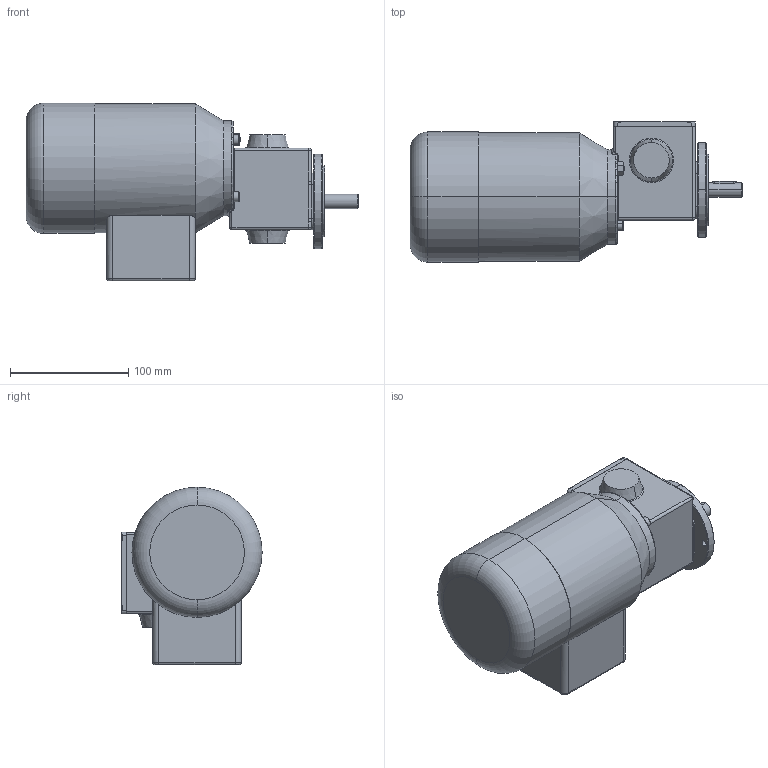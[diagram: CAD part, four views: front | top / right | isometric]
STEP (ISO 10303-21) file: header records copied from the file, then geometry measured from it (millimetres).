
FILE_DESCRIPTION (( 'STEP AP214' ), '1' );
FILE_NAME ('SN4F_90W_1400Upm_Drehstrom-Motor.STEP', '2021-09-23T06:24:25', ( '' ), ( '' ), 'SwSTEP 2.0', 'SolidWorks 2019', '' );
FILE_SCHEMA (( 'AUTOMOTIVE_DESIGN' ));
Length unit declared in the file: millimetre
Products named in the file (16): K_26x6,5; PF_A4x4x20; slotted countersunk flat head screw_din_DIN EN ISO 2009 - M5 x 12 - 12C; SN4F_90W_1400Upm_Drehstrom-Motor; hex nut style 1 gradeab_din_Hexagon Nut ISO 4032 - M6 - D - C; 04B-D-003; 04F-W-002_3D_Export; 04-M-028 I 90W_1400Upm; 04F-G-005_3D_Export; socket head cap screw_din_DIN 912 M5 x 16 --- 16C; NBR_WDR_12x37x10; socket set screw flat point_din_DIN 913 - M5 x 25-C; slotted pan head screw_din_DIN EN ISO 1580 - M5 x 12 - 12C; hex bolt gradeab_din_DIN EN 24014 - M5 x 25 x 25-C; SN4F_3D_Export; 04F-F-002
Assembly tree (22 placements, depth 3):
  SN4F_90W_1400Upm_Drehstrom-Motor
    SN4F_3D_Export
      04F-G-005_3D_Export
      04F-W-002_3D_Export
      04F-F-002
      04B-D-003
      K_26x6,5
      NBR_WDR_12x37x10
      PF_A4x4x20
      slotted countersunk flat head screw_din_DIN EN ISO 2009 - M5 x 12 - 12C  x4
      socket head cap screw_din_DIN 912 M5 x 16 --- 16C  x2
      hex bolt gradeab_din_DIN EN 24014 - M5 x 25 x 25-C
      socket set screw flat point_din_DIN 913 - M5 x 25-C
      hex nut style 1 gradeab_din_Hexagon Nut ISO 4032 - M6 - D - C
      slotted pan head screw_din_DIN EN ISO 1580 - M5 x 12 - 12C  x4
    04-M-028 I 90W_1400Upm
Bounding box: 280.5 x 118.5 x 150 mm (x, y, z)
Volume: 2238907.1 mm3; surface area: 167863 mm2
Topology: 21 solids, 22 shells, 559 faces, 1243 edges, 737 vertices
Faces by surface type: cylinder 190, plane 184, cone 132, torus 42, bspline 8, sphere 3
Entity records: 13887 total; most frequent: CARTESIAN_POINT 2753, DIRECTION 2343, ORIENTED_EDGE 1948, EDGE_CURVE 974, AXIS2_PLACEMENT_3D 966, VERTEX_POINT 590, EDGE_LOOP 524, CIRCLE 497
